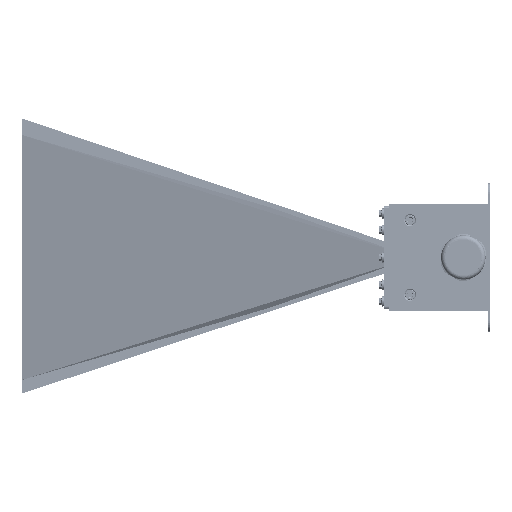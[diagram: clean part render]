
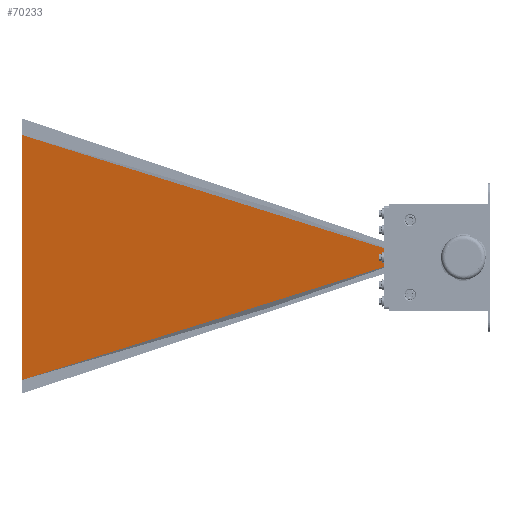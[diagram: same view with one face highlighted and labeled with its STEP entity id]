
A CAD part, left-side view. The second image highlights one B-rep face of the part: STEP entity #70233.
In plain terms, the highlighted planar face has unit normal (-0.976, 0.217, 0) as drawn and (0, 0.976, 0.218) by its records, which use the part's own axes.
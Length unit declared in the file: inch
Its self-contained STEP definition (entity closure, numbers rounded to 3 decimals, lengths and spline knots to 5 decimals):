
#662 = DIRECTION ( 'NONE',  ( 1., 0., 0. ) ) ;
#1803 = VERTEX_POINT ( 'NONE', #51862 ) ;
#4834 = EDGE_CURVE ( 'NONE', #62313, #79485, #17150, .T. ) ;
#10503 = EDGE_CURVE ( 'NONE', #1803, #79485, #72799, .T. ) ;
#14689 = FACE_OUTER_BOUND ( 'NONE', #23934, .T. ) ;
#15819 = ORIENTED_EDGE ( 'NONE', *, *, #82197, .T. ) ;
#17150 = LINE ( 'NONE', #52828, #20046 ) ;
#20046 = VECTOR ( 'NONE', #46065, 39.37008 ) ;
#20647 = VECTOR ( 'NONE', #65568, 39.37008 ) ;
#23934 = EDGE_LOOP ( 'NONE', ( #15819, #63831, #85054, #57047 ) ) ;
#26479 = AXIS2_PLACEMENT_3D ( 'NONE', #40936, #54933, #662 ) ;
#29289 = LINE ( 'NONE', #56838, #67609 ) ;
#35773 = VERTEX_POINT ( 'NONE', #86952 ) ;
#39383 = CARTESIAN_POINT ( 'NONE',  ( -0.16687, 3.97832, -0.25235 ) ) ;
#40936 = CARTESIAN_POINT ( 'NONE',  ( 0., 3.7365, 0.83274 ) ) ;
#46065 = DIRECTION ( 'NONE',  ( 0.292, 0.208, -0.934 ) ) ;
#51862 = CARTESIAN_POINT ( 'NONE',  ( 0.16687, 3.97832, -0.25235 ) ) ;
#52828 = CARTESIAN_POINT ( 'NONE',  ( -2.95745, 1.98916, 8.67304 ) ) ;
#54933 = DIRECTION ( 'NONE',  ( 0., 0.976, 0.218 ) ) ;
#56838 = CARTESIAN_POINT ( 'NONE',  ( 5.74803, 0., 17.59843 ) ) ;
#57047 = ORIENTED_EDGE ( 'NONE', *, *, #88752, .T. ) ;
#57683 = DIRECTION ( 'NONE',  ( 1., 0., 0. ) ) ;
#58129 = LINE ( 'NONE', #72151, #68831 ) ;
#59224 = CARTESIAN_POINT ( 'NONE',  ( 0.16687, 3.97832, -0.25235 ) ) ;
#62313 = VERTEX_POINT ( 'NONE', #81212 ) ;
#63831 = ORIENTED_EDGE ( 'NONE', *, *, #10503, .T. ) ;
#65568 = DIRECTION ( 'NONE',  ( -1., 0., 0. ) ) ;
#67609 = VECTOR ( 'NONE', #84399, 39.37008 ) ;
#68831 = VECTOR ( 'NONE', #57683, 39.37008 ) ;
#68954 = PLANE ( 'NONE',  #26479 ) ;
#70233 = ADVANCED_FACE ( 'NONE', ( #14689 ), #68954, .T. ) ;
#72151 = CARTESIAN_POINT ( 'NONE',  ( -5.74803, 0., 17.59843 ) ) ;
#72799 = LINE ( 'NONE', #59224, #20647 ) ;
#79485 = VERTEX_POINT ( 'NONE', #39383 ) ;
#81212 = CARTESIAN_POINT ( 'NONE',  ( -5.74803, 0., 17.59843 ) ) ;
#82197 = EDGE_CURVE ( 'NONE', #35773, #1803, #29289, .T. ) ;
#84399 = DIRECTION ( 'NONE',  ( -0.292, 0.208, -0.934 ) ) ;
#85054 = ORIENTED_EDGE ( 'NONE', *, *, #4834, .F. ) ;
#86952 = CARTESIAN_POINT ( 'NONE',  ( 5.74803, 0., 17.59843 ) ) ;
#88752 = EDGE_CURVE ( 'NONE', #62313, #35773, #58129, .T. ) ;
